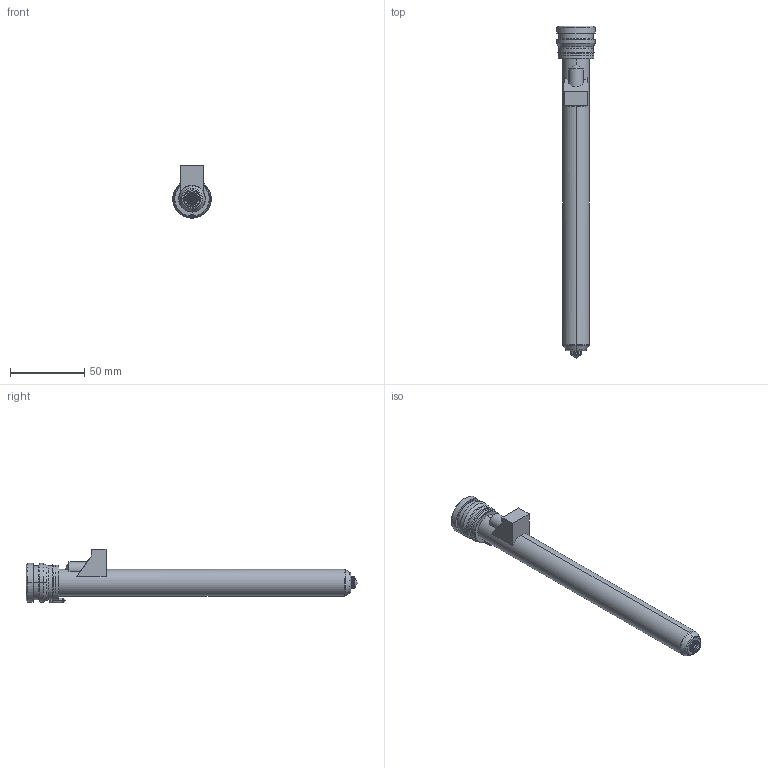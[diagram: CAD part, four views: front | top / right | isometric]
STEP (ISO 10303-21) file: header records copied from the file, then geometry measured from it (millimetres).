
FILE_DESCRIPTION((''),'2;1');
FILE_NAME('TH18206-M-1GLT-PK-JG','2023-12-14T',('umhib'),('Thermoplay S.p.A.'),'PRO/ENGINEER BY PARAMETRIC TECHNOLOGY CORPORATION, 2017170','PRO/ENGINEER BY PARAMETRIC TECHNOLOGY CORPORATION, 2017170','');
FILE_SCHEMA(('CONFIG_CONTROL_DESIGN'));
Length unit declared in the file: millimetre
Products named in the file (1): TH18206-M-1GLT-PK-JG
Bounding box: 26 x 224 x 36.1 mm (x, y, z)
Volume: 44117.4 mm3; surface area: 33259.9 mm2
Topology: 1 solids, 2 shells, 413 faces, 1052 edges, 647 vertices
Faces by surface type: cylinder 160, plane 92, cone 64, torus 64, bspline 22, sphere 9, extrusion 2
Entity records: 16925 total; most frequent: CARTESIAN_POINT 4927, DIRECTION 2166, ORIENTED_EDGE 2078, EDGE_CURVE 1041, AXIS2_PLACEMENT_3D 881, VERTEX_POINT 647, CIRCLE 491, EDGE_LOOP 441
